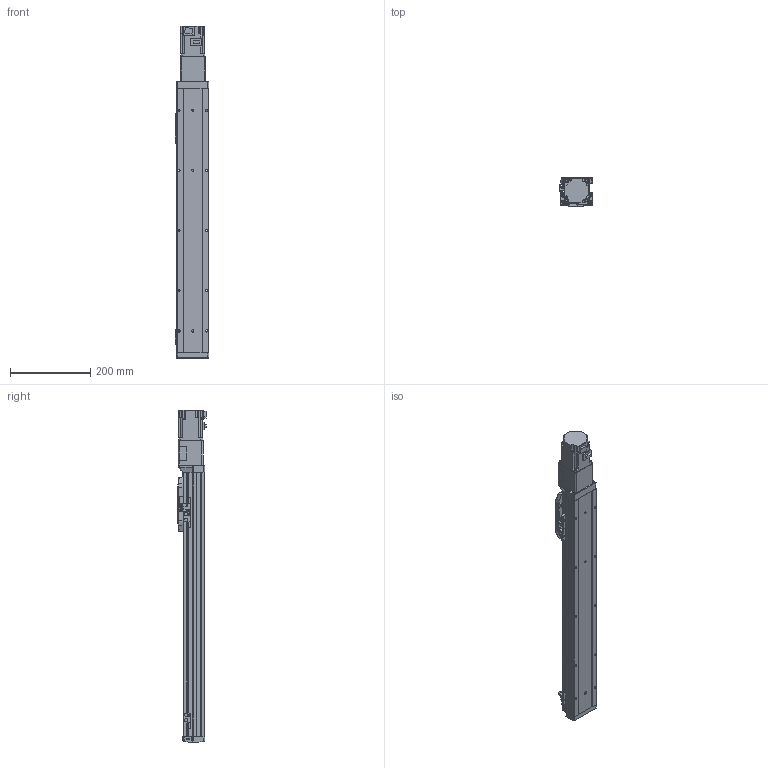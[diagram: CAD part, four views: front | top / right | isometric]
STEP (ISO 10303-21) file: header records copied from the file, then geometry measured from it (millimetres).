
FILE_DESCRIPTION (( 'STEP AP214' ), '1' );
FILE_NAME ('GSH8-500-BC-M20-1.step', '2025-01-07T06:03:53', ( '' ), ( '' ), 'SwSTEP 2.0', 'SolidWorks 2012', '' );
FILE_SCHEMA (( 'AUTOMOTIVE_DESIGN' ));
Length unit declared in the file: millimetre
Products named in the file (4): GSH8-500-BC-M20-1; HG-KR23_200W_Motor; GSH8-GY-004; GSH8-BC-011-500-M20
Assembly tree (3 placements, depth 2):
  GSH8-500-BC-M20-1
    GSH8-BC-011-500-M20
    GSH8-GY-004
    HG-KR23_200W_Motor
Bounding box: 84 x 71.3 x 827.6 mm (x, y, z)
Volume: 1760092.4 mm3; surface area: 455786.1 mm2
Topology: 3 solids, 7 shells, 1120 faces, 2963 edges, 1908 vertices
Faces by surface type: plane 646, cylinder 382, torus 38, cone 26, bspline 24, sphere 4
Entity records: 43921 total; most frequent: CARTESIAN_POINT 9891, DIRECTION 5999, ORIENTED_EDGE 5910, EDGE_CURVE 2955, AXIS2_PLACEMENT_3D 2012, VECTOR 1975, LINE 1975, VERTEX_POINT 1904
